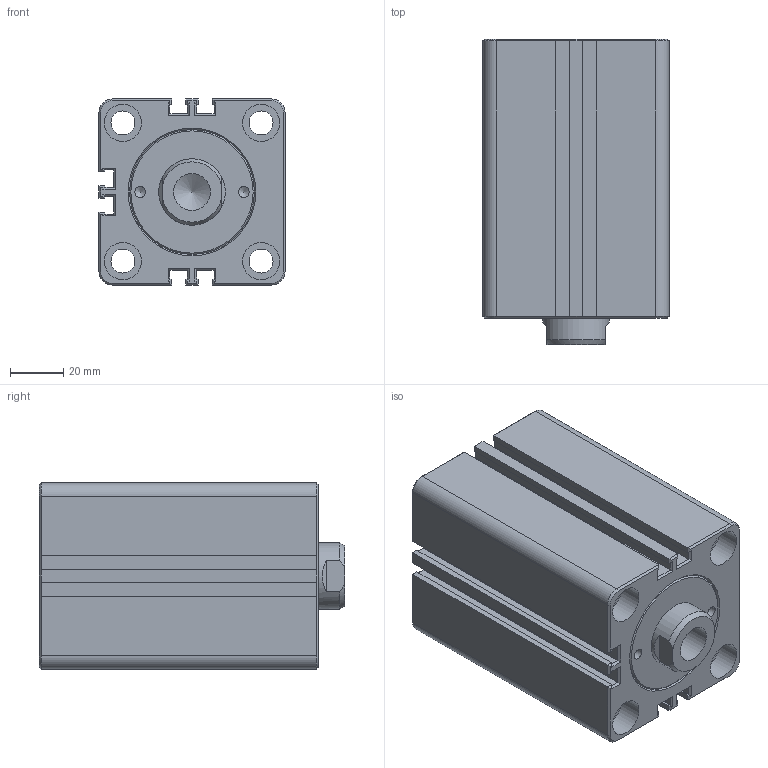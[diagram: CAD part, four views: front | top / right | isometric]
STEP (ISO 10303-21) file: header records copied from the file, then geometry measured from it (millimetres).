
FILE_DESCRIPTION(/* description */ ('Unknown'),/* implementation_level */ '2;1');
FILE_NAME(/* name */ 'HTM70-SDMB40X50N',/* time_stamp */ '2022-08-31T05:43:06+08:00',/* author */ ('Unknown'),/* organization */ ('Unknown'),/* preprocessor_version */ 'ST-DEVELOPER v16.7',/* originating_system */ 'DEX',/* authorisation */ $);
FILE_SCHEMA (('AUTOMOTIVE_DESIGN {1 0 10303 214 3 1 1}'));
Length unit declared in the file: millimetre
Products named in the file (1): HTM70-SDMB40X50N
Bounding box: 70 x 115 x 70 mm (x, y, z)
Volume: 455713.3 mm3; surface area: 63693.9 mm2
Topology: 1 solids, 1 shells, 285 faces, 663 edges, 400 vertices
Faces by surface type: plane 182, cone 40, bspline 36, cylinder 27
Full cylindrical faces by diameter (mm): 4.1 x2, 6 x3, 9 x4, 12 x2, 13 x2, 13.835 x1, 14 x8, 25 x1
Entity records: 9973 total; most frequent: CARTESIAN_POINT 1959, ORIENTED_EDGE 1218, DIRECTION 1128, EDGE_CURVE 609, LINE 402, VECTOR 402, VERTEX_POINT 386, AXIS2_PLACEMENT_3D 363
